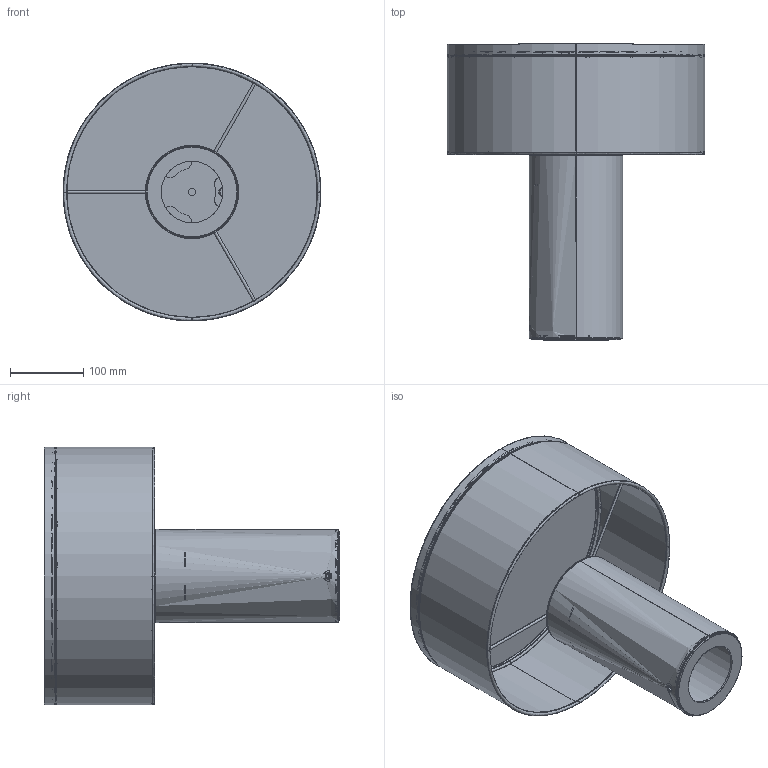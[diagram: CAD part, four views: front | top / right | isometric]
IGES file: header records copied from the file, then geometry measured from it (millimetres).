
Start section: SolidWorks IGES file using analytic representation for surfaces
Global section: file name: C:\Users\anna.bielnik\Desktop\biurkowa c.IGS; native system: SolidWorks 2025; preprocessor: SolidWorks 2025; author: anna.bielnik; date: 260415.131257; units: millimetre
Bounding box: 351 x 402.5 x 351 mm (x, y, z)
Surface area: 873928 mm2 (no closed solid volume)
Topology: 0 solids, 0 shells, 492 faces, 6285 edges, 6279 vertices
Faces by surface type: bspline 292, revolution 200
